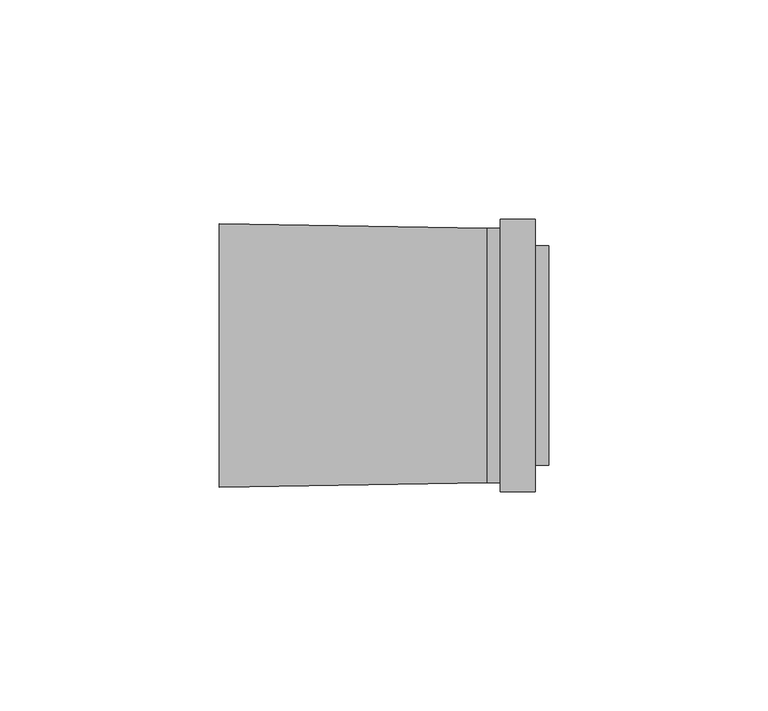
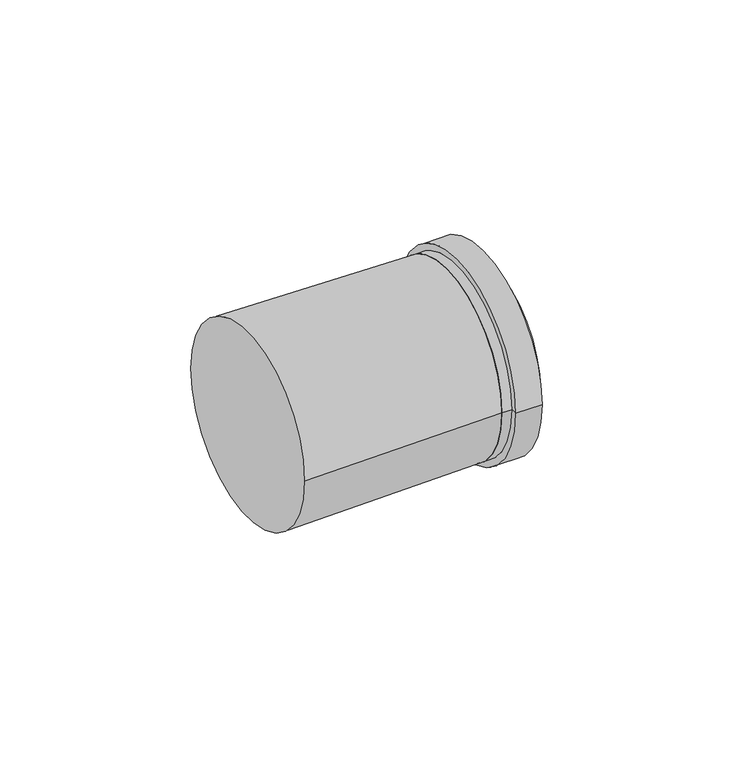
"""IFC4 building model written with IfcOpenShell, lengths in millimetres: cable carrier fitting geometry, КНС_МуфтаТрубаКоробка_IP67_DKC : Коробка."""

import ifcopenshell
import ifcopenshell.guid

model = None  # the IFC model being written
_history = None  # IfcOwnerHistory: only IFC2X3 demands one
_inside = {}  # id of a spatial element -> (the spatial element, [elements in it])
_under = {}  # id of a project, library or spatial element -> (it, [spatial elements below it])
_declared = {}  # id of a project -> (the project, [libraries it declares])
_typed = {}  # id of a type object -> (the type object, [elements of that type])
_made_of = {}  # id of a material, layer set ... -> (it, [elements and type objects made of it])


def new_model(schema):
    """Start an empty IFC model of exactly this schema.

    Asked for "IFC4X3", IfcOpenShell would pick the latest addendum, in which some entities
    have other attributes; the version numbers below select the first issue.
    IFC2X3 requires an IfcOwnerHistory on every rooted entity: one is made here for all.
    """
    global model, _history
    if schema == "IFC4X3":
        model = ifcopenshell.file(schema_version=(4, 3, 0, 0))
    else:
        model = ifcopenshell.file(schema=schema)
    _inside.clear()
    _under.clear()
    _declared.clear()
    _typed.clear()
    _made_of.clear()
    _history = None
    if model.schema == "IFC2X3":
        org = make("IfcOrganization", Name="unknown")
        user = make(
            "IfcPersonAndOrganization",
            ThePerson=make("IfcPerson", FamilyName="unknown"),
            TheOrganization=org,
        )
        app = make(
            "IfcApplication",
            ApplicationDeveloper=org,
            Version="unknown",
            ApplicationFullName="unknown",
            ApplicationIdentifier="unknown",
        )
        _history = make(
            "IfcOwnerHistory",
            OwningUser=user,
            OwningApplication=app,
            ChangeAction="ADDED",
            CreationDate=0,
        )
    return model


def make(cls, **values):
    """One entity of the class cls with the attributes given. An attribute that is None is left unset."""
    return model.create_entity(
        cls, **{name: value for name, value in values.items() if value is not None}
    )


def rooted(cls, **values):
    """An entity with a GlobalId (a new one), such as an element, a storey or a relation."""
    return make(cls, GlobalId=ifcopenshell.guid.new(), OwnerHistory=_history, **values)


def si_unit(unit_type, name, prefix=None):
    """IfcSIUnit, for example si_unit("LENGTHUNIT", "METRE", prefix="MILLI")."""
    return make("IfcSIUnit", UnitType=unit_type, Prefix=prefix, Name=name)


def assignment(units):
    """IfcUnitAssignment: the units of a project."""
    return None if units is None else make("IfcUnitAssignment", Units=units)


def point(xyz):
    """IfcCartesianPoint."""
    return None if xyz is None else make("IfcCartesianPoint", Coordinates=xyz)


def direction(xyz):
    """IfcDirection."""
    return None if xyz is None else make("IfcDirection", DirectionRatios=xyz)


def frame(location, z_axis=None, x_axis=None):
    """IfcAxis2Placement3D, a coordinate frame: its origin and axes. An axis left out is left unset."""
    return make(
        "IfcAxis2Placement3D",
        Location=point(location),
        Axis=direction(z_axis),
        RefDirection=direction(x_axis),
    )


def origin():
    """The frame at (0, 0, 0) with its axes left unset."""
    return frame((0.0, 0.0, 0.0))


def place(relative_to, where):
    """IfcLocalPlacement: puts the frame where relative to a parent placement (None: the world)."""
    return make(
        "IfcLocalPlacement", PlacementRelTo=relative_to, RelativePlacement=where
    )


def context(
    kind, dimensions, precision=None, world=None, true_north=None, identifier=None
):
    """IfcGeometricRepresentationContext, for example the 3D "Model" context."""
    return make(
        "IfcGeometricRepresentationContext",
        ContextIdentifier=identifier,
        ContextType=kind,
        CoordinateSpaceDimension=dimensions,
        Precision=precision,
        WorldCoordinateSystem=world,
        TrueNorth=true_north,
    )


def project(units=None, contexts=None):
    """IfcProject with its units and contexts."""
    return rooted(
        "IfcProject",
        Name="project",
        RepresentationContexts=contexts,
        UnitsInContext=assignment(units),
    )


def spatial(cls, under=None, at=None, **own):
    """A site, building, storey or space (cls), placed at a placement, below another one or the project."""
    s = rooted(cls, ObjectPlacement=at, **own)
    if under is not None:
        _under.setdefault(under.id(), (under, []))[1].append(s)
    return s


def polyline(points):
    """IfcPolyline through the points."""
    return make("IfcPolyline", Points=[point(p) for p in points])


def circle_curve(where, radius):
    """IfcCircle in the frame where."""
    return make("IfcCircle", Position=where, Radius=radius)


def shape(context_of_items, identifier, shape_type, items):
    """IfcShapeRepresentation: the items that make up one representation, for example the "Body"."""
    return make(
        "IfcShapeRepresentation",
        ContextOfItems=context_of_items,
        RepresentationIdentifier=identifier,
        RepresentationType=shape_type,
        Items=items,
    )


def source(mapping_origin, context_of_items, identifier, shape_type, items):
    """IfcRepresentationMap: a shape defined once, which mapped items show again and again."""
    return make(
        "IfcRepresentationMap",
        MappingOrigin=mapping_origin,
        MappedRepresentation=shape(context_of_items, identifier, shape_type, items),
    )


def transform(
    local_origin,
    x_axis=None,
    y_axis=None,
    z_axis=None,
    scale=None,
    scale2=None,
    scale3=None,
    uniform=True,
):
    """IfcCartesianTransformationOperator3D, or its non-uniform kind. x_axis, y_axis, z_axis: its Axis1, 2, 3."""
    if uniform:
        return make(
            "IfcCartesianTransformationOperator3D",
            Axis1=direction(x_axis),
            Axis2=direction(y_axis),
            LocalOrigin=point(local_origin),
            Scale=scale,
            Axis3=direction(z_axis),
        )
    return make(
        "IfcCartesianTransformationOperator3DnonUniform",
        Axis1=direction(x_axis),
        Axis2=direction(y_axis),
        LocalOrigin=point(local_origin),
        Scale=scale,
        Axis3=direction(z_axis),
        Scale2=scale2,
        Scale3=scale3,
    )


def mapped(mapping_source, mapping_target):
    """IfcMappedItem: shows the shape of a source again, moved by a transform."""
    return make(
        "IfcMappedItem", MappingSource=mapping_source, MappingTarget=mapping_target
    )


def made_of(thing, what):
    """Note that an element or type object is made of a material, layer set ...; save() writes the relation."""
    if what is not None:
        _made_of.setdefault(what.id(), (what, []))[1].append(thing)
    return thing


def element(
    cls,
    number,
    at=None,
    inside=None,
    cuts=None,
    type_object=None,
    material=None,
    context=None,
    identifier="Body",
    shape_type=None,
    held_by="IfcProductDefinitionShape",
    body=None,
    shapes=None,
    **own,
):
    """One element of the class cls, such as IfcWall. Its Tag is "e" and its number.

    at: its placement. inside: the storey or other place that contains it. cuts: it is an
    opening in that element (IfcRelVoidsElement). A single representation is given by context,
    identifier, shape_type and body (its items); several are given by shapes. held_by: the class
    of the entity that holds the representations. save() writes the other relations.
    """
    e = rooted(cls, Tag="e%d" % number, ObjectPlacement=at, **own)
    if body is not None:
        shapes = [shape(context, identifier, shape_type, body)]
    if shapes is not None:
        e.Representation = make(held_by, Representations=shapes)
    if inside is not None:
        _inside.setdefault(inside.id(), (inside, []))[1].append(e)
    if cuts is not None:
        rooted(
            "IfcRelVoidsElement", RelatingBuildingElement=cuts, RelatedOpeningElement=e
        )
    if type_object is not None:
        _typed.setdefault(type_object.id(), (type_object, []))[1].append(e)
    return made_of(e, material)


def aggregate(whole, parts):
    """IfcRelAggregates: a whole, such as a stair, and the parts it consists of."""
    return rooted("IfcRelAggregates", RelatingObject=whole, RelatedObjects=parts)


def save(model, path):
    """Write the relations noted so far, then the file.

    IfcRelAggregates (storeys below a building ...), IfcRelContainedInSpatialStructure (elements
    in a storey), IfcRelDefinesByType, IfcRelAssociatesMaterial and IfcRelDeclares: one each for
    every whole, place, type object, material and project.
    """
    for whole, parts in _under.values():
        aggregate(whole, parts)
    for where, things in _inside.values():
        rooted(
            "IfcRelContainedInSpatialStructure",
            RelatedElements=things,
            RelatingStructure=where,
        )
    for kind, things in _typed.values():
        rooted("IfcRelDefinesByType", RelatedObjects=things, RelatingType=kind)
    for what, things in _made_of.values():
        rooted("IfcRelAssociatesMaterial", RelatedObjects=things, RelatingMaterial=what)
    for by, libraries in _declared.values():
        rooted("IfcRelDeclares", RelatingContext=by, RelatedDefinitions=libraries)
    model.write(path)


def plane_surface(at):
    """IfcPlane: the flat surface through the origin of the frame at, square to its z axis."""
    return make("IfcPlane", Position=at)


def cylinder_surface(at, radius):
    """IfcCylindricalSurface: all points at the distance radius from the z axis of the frame at."""
    return make("IfcCylindricalSurface", Position=at, Radius=radius)


def revolved_surface(curve, axis_point, axis_direction):
    """IfcSurfaceOfRevolution: the curve turned about the line through axis_point along axis_direction."""
    return make(
        "IfcSurfaceOfRevolution",
        SweptCurve=make("IfcArbitraryOpenProfileDef", ProfileType="CURVE", Curve=curve),
        AxisPosition=make("IfcAxis1Placement", Location=point(axis_point), Axis=direction(axis_direction)),
    )


def advanced_brep(points, edges, surfaces, faces):
    """IfcAdvancedBrep: a solid bounded by faces that lie on surfaces and meet in shared edges.

    An edge is (start, end): straight between two places in points (the first is 0);
    or (start, end, curve); or (start, end, curve, False) where it runs against its curve.
    A face is (place in surfaces, loops), or (place, loops, False) where it looks against
    its surface's normal. A loop lists edges by number (the first is 1), with a minus sign
    where the edge is run from its end to its start. The first loop is the outer one.
    """
    corners = [point(p) for p in points]
    vertices = [make("IfcVertexPoint", VertexGeometry=c) for c in corners]
    made = []
    for start, end, *more in edges:
        made.append(
            make(
                "IfcEdgeCurve",
                EdgeStart=vertices[start],
                EdgeEnd=vertices[end],
                EdgeGeometry=more[0] if more else make("IfcPolyline", Points=[corners[start], corners[end]]),
                SameSense=more[1] if len(more) > 1 else True,
            )
        )
    hull = []
    for where, loops, *sense in faces:
        bounds = []
        for j, loop in enumerate(loops):
            ring = [make("IfcOrientedEdge", EdgeElement=made[abs(k) - 1], Orientation=k > 0) for k in loop]
            bounds.append(
                make(
                    "IfcFaceOuterBound" if j == 0 else "IfcFaceBound",
                    Bound=make("IfcEdgeLoop", EdgeList=ring),
                    Orientation=True,
                )
            )
        hull.append(make("IfcAdvancedFace", Bounds=bounds, FaceSurface=surfaces[where], SameSense=sense[0] if sense else True))
    return make("IfcAdvancedBrep", Outer=make("IfcClosedShell", CfsFaces=hull))


def cable_carrier_fitting_cebaea63(model_context):
    return source(origin(), model_context, "Body", "AdvancedBrep", [
        advanced_brep(
        [(37.5, -25.0, 0.0), (37.5, 25.0, 0.0), (37.5, 0.0, 0.0), (34.5, -25.0, 0.0), (34.5, 25.0, 0.0), (34.5, -31.0, 0.0), (34.5, 31.0, 0.0), (26.5, -31.0, 0.0), (26.5, 31.0, 0.0), (26.5, -29.0, 0.0), (26.5, 29.0, 0.0), (23.5, -29.0, 0.0), (23.5, 29.0, 0.0), (23.5, 0.0, 0.0)],
        [
            (0, 1, circle_curve(frame((37.5, 0.0, 0.0), z_axis=(1.0, 0.0, 0.0), x_axis=(0.0, 1.0, 0.0)), 25.0)),
            (1, 2),
            (2, 0),
            (1, 0, circle_curve(frame((37.5, 0.0, 0.0), z_axis=(1.0, 0.0, 0.0), x_axis=(0.0, 1.0, 0.0)), 25.0)),
            (3, 4, circle_curve(frame((34.5, 0.0, 0.0), z_axis=(1.0, 0.0, 0.0), x_axis=(0.0, 1.0, 0.0)), 25.0)),
            (4, 1),
            (0, 3),
            (4, 3, circle_curve(frame((34.5, 0.0, 0.0), z_axis=(1.0, 0.0, 0.0), x_axis=(0.0, 1.0, 0.0)), 25.0)),
            (5, 6, circle_curve(frame((34.5, 0.0, 0.0), z_axis=(1.0, 0.0, 0.0), x_axis=(0.0, 1.0, 0.0)), 31.0)),
            (6, 4),
            (3, 5),
            (6, 5, circle_curve(frame((34.5, 0.0, 0.0), z_axis=(1.0, 0.0, 0.0), x_axis=(0.0, 1.0, 0.0)), 31.0)),
            (7, 8, circle_curve(frame((26.5, 0.0, 0.0), z_axis=(1.0, 0.0, 0.0), x_axis=(0.0, 1.0, 0.0)), 31.0)),
            (8, 6),
            (5, 7),
            (8, 7, circle_curve(frame((26.5, 0.0, 0.0), z_axis=(1.0, 0.0, 0.0), x_axis=(0.0, 1.0, 0.0)), 31.0)),
            (9, 10, circle_curve(frame((26.5, 0.0, 0.0), z_axis=(1.0, 0.0, 0.0), x_axis=(0.0, 1.0, 0.0)), 29.0)),
            (10, 8),
            (7, 9),
            (10, 9, circle_curve(frame((26.5, 0.0, 0.0), z_axis=(1.0, 0.0, 0.0), x_axis=(0.0, 1.0, 0.0)), 29.0)),
            (11, 12, circle_curve(frame((23.5, 0.0, 0.0), z_axis=(1.0, 0.0, 0.0), x_axis=(0.0, 1.0, 0.0)), 29.0)),
            (12, 10),
            (9, 11),
            (12, 11, circle_curve(frame((23.5, 0.0, 0.0), z_axis=(1.0, 0.0, 0.0), x_axis=(0.0, 1.0, 0.0)), 29.0)),
            (13, 12),
            (11, 13),
        ],
        [
            plane_surface(frame((37.5, 0.0, 0.0), z_axis=(1.0, 0.0, 0.0), x_axis=(0.0, 1.0, 0.0))),
            cylinder_surface(frame((1533.0, 0.0, 0.0), z_axis=(-1.0, 0.0, 0.0), x_axis=(0.0, 1.0, 0.0)), 25.0),
            plane_surface(frame((34.5, 0.0, 0.0), z_axis=(1.0, 0.0, 0.0), x_axis=(0.0, 1.0, 0.0))),
            cylinder_surface(frame((1533.0, 0.0, 0.0), z_axis=(-1.0, 0.0, 0.0), x_axis=(0.0, 1.0, 0.0)), 31.0),
            plane_surface(frame((26.5, 0.0, 0.0), z_axis=(-1.0, 0.0, 0.0), x_axis=(0.0, 1.0, 0.0))),
            cylinder_surface(frame((1533.0, 0.0, 0.0), z_axis=(-1.0, 0.0, 0.0), x_axis=(0.0, 1.0, 0.0)), 29.0),
            plane_surface(frame((23.5, 0.0, 0.0), z_axis=(-1.0, 0.0, 0.0), x_axis=(0.0, 1.0, 0.0))),
        ],
        [
            (0, [[1, 2, 3]]),
            (0, [[4, -3, -2]]),
            (1, [[5, 6, -1, 7]]),
            (1, [[8, -7, -4, -6]]),
            (2, [[9, 10, -5, 11]]),
            (2, [[12, -11, -8, -10]]),
            (3, [[13, 14, -9, 15]]),
            (3, [[16, -15, -12, -14]]),
            (4, [[17, 18, -13, 19]]),
            (4, [[20, -19, -16, -18]]),
            (5, [[21, 22, -17, 23]]),
            (5, [[24, -23, -20, -22]]),
            (6, [[25, -21, 26]]),
            (6, [[-26, -24, -25]]),
        ],
    ),
        advanced_brep(
        [(-37.5, -30.0, 0.0), (-37.5, 30.0, 0.0), (23.5, -29.0, 0.0), (23.5, 29.0, 0.0)],
        [
            (0, 1, circle_curve(frame((-37.5, 0.0, 0.0), z_axis=(-1.0, 0.0, 0.0), x_axis=(0.0, -1.0, 0.0)), 30.0)),
            (1, 0, circle_curve(frame((-37.5, 0.0, 0.0), z_axis=(-1.0, 0.0, 0.0), x_axis=(0.0, 1.0, 0.0)), 30.0)),
            (2, 3, circle_curve(frame((23.5, 0.0, 0.0), z_axis=(1.0, 0.0, 0.0), x_axis=(0.0, 1.0, 0.0)), 29.0)),
            (3, 2, circle_curve(frame((23.5, 0.0, 0.0), z_axis=(1.0, 0.0, 0.0), x_axis=(0.0, -1.0, 0.0)), 29.0)),
            (2, 0),
            (1, 3),
        ],
        [
            plane_surface(frame((-37.5, 0.0, 0.0), z_axis=(-1.0, 0.0, 0.0), x_axis=(0.0, 0.0, -1.0))),
            plane_surface(frame((23.5, 0.0, 0.0), z_axis=(1.0, 0.0, 0.0), x_axis=(0.0, 0.0, -1.0))),
            revolved_surface(polyline([(23.5, -29.0, 0.0), (-37.5, -30.0, 0.0)]), (1792.5, 0.0, 0.0), (-1.0, 0.0, 0.0)),
            revolved_surface(polyline([(23.5, 29.0, 0.0), (-37.5, 30.0, 0.0)]), (1792.5, 0.0, 0.0), (-1.0, 0.0, 0.0)),
        ],
        [
            (0, [[1, 2]]),
            (1, [[3, 4]]),
            (2, [[-3, 5, -2, 6]]),
            (3, [[-4, -6, -1, -5]]),
        ],
    ),
    ])


if __name__ == "__main__":
    model = new_model("IFC4")
    model_context = context("Model", 3, world=origin())
    ifc_project = project(units=[si_unit("LENGTHUNIT", "METRE", prefix="MILLI")], contexts=[model_context])
    site = spatial("IfcSite", under=ifc_project)
    building = spatial("IfcBuilding", under=site)
    placement = place(None, origin())
    cable_carrier_fitting_shape = cable_carrier_fitting_cebaea63(model_context)
    element("IfcCableCarrierFitting", 1, ObjectType="КНС_МуфтаТрубаКоробка_IP67_DKC : Коробка", at=placement, inside=building, context=model_context, shape_type="MappedRepresentation", body=[
        mapped(cable_carrier_fitting_shape, transform((0.0, 0.0, 0.0), x_axis=(1.0, 0.0, 0.0), y_axis=(0.0, 1.0, 0.0), z_axis=(0.0, 0.0, 1.0))),
    ])
    save(model, "model.ifc")
